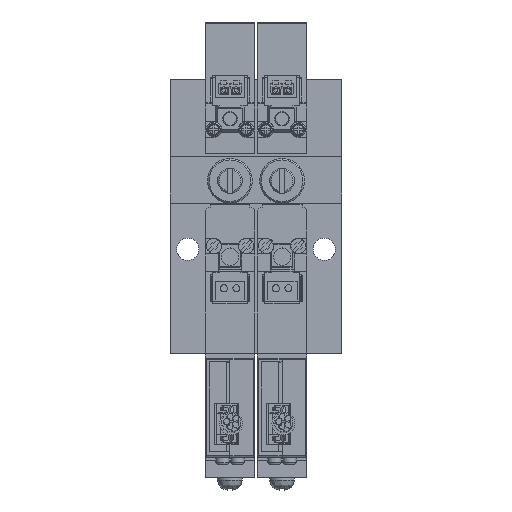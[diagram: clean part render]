
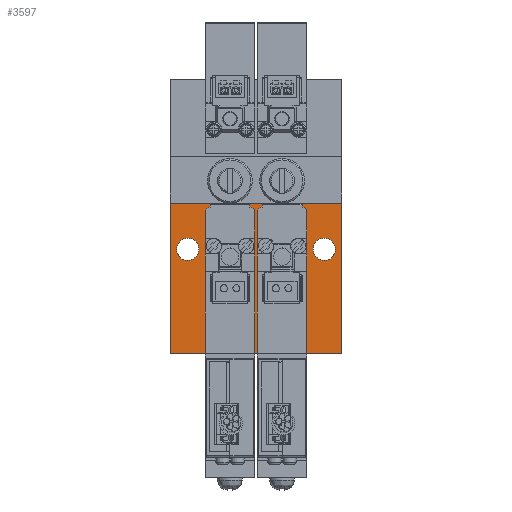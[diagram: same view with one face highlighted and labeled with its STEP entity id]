
A CAD part, top view. The second image highlights one B-rep face of the part: STEP entity #3597.
In plain terms, the highlighted planar face has unit normal (0, 0, 1).
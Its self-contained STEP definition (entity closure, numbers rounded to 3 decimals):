
#3597=ADVANCED_FACE('',(#6186,#6187,#6188),#6189,.F.);
#6186=FACE_BOUND('',#11472,.T.);
#6187=FACE_BOUND('',#11473,.T.);
#6188=FACE_OUTER_BOUND('',#11474,.T.);
#6189=PLANE('',#11475);
#11472=EDGE_LOOP('',(#17495));
#11473=EDGE_LOOP('',(#17496));
#11474=EDGE_LOOP('',(#17497,#17498,#17499,#17500));
#11475=AXIS2_PLACEMENT_3D('',#17501,#17502,#17503);
#17495=ORIENTED_EDGE('',*,*,#37843,.F.);
#17496=ORIENTED_EDGE('',*,*,#37844,.F.);
#17497=ORIENTED_EDGE('',*,*,#37845,.F.);
#17498=ORIENTED_EDGE('',*,*,#37846,.F.);
#17499=ORIENTED_EDGE('',*,*,#37847,.T.);
#17500=ORIENTED_EDGE('',*,*,#37841,.T.);
#17501=CARTESIAN_POINT('',(-34.5,30.3,14.8));
#17502=DIRECTION('',(0.0,0.0,-1.0));
#17503=DIRECTION('',(1.0,0.0,0.0));
#37841=EDGE_CURVE('',#44412,#44410,#44413,.T.);
#37843=EDGE_CURVE('',#44415,#44415,#44416,.T.);
#37844=EDGE_CURVE('',#44417,#44417,#44418,.T.);
#37845=EDGE_CURVE('',#44419,#44410,#44420,.T.);
#37846=EDGE_CURVE('',#44421,#44419,#44422,.T.);
#37847=EDGE_CURVE('',#44421,#44412,#44423,.T.);
#44410=VERTEX_POINT('',#55430);
#44412=VERTEX_POINT('',#55433);
#44413=LINE('',#55434,#55435);
#44415=VERTEX_POINT('',#55438);
#44416=CIRCLE('',#55439,2.25);
#44417=VERTEX_POINT('',#55440);
#44418=CIRCLE('',#55441,2.25);
#44419=VERTEX_POINT('',#55442);
#44420=LINE('',#55443,#55444);
#44421=VERTEX_POINT('',#55445);
#44422=LINE('',#55446,#55447);
#44423=LINE('',#55448,#55449);
#55430=CARTESIAN_POINT('',(0.0,0.,14.8));
#55433=CARTESIAN_POINT('',(-34.5,0.,14.8));
#55434=CARTESIAN_POINT('',(-34.5,0.,14.8));
#55435=VECTOR('',#72886,1.0);
#55438=CARTESIAN_POINT('',(-28.75,21.0,14.8));
#55439=AXIS2_PLACEMENT_3D('',#72888,#72889,#72890);
#55440=CARTESIAN_POINT('',(-1.25,21.0,14.8));
#55441=AXIS2_PLACEMENT_3D('',#72891,#72892,#72893);
#55442=CARTESIAN_POINT('',(0.0,30.3,14.8));
#55443=CARTESIAN_POINT('',(0.0,30.3,14.8));
#55444=VECTOR('',#72894,1.0);
#55445=CARTESIAN_POINT('',(-34.5,30.3,14.8));
#55446=CARTESIAN_POINT('',(-34.5,30.3,14.8));
#55447=VECTOR('',#72895,1.0);
#55448=CARTESIAN_POINT('',(-34.5,30.3,14.8));
#55449=VECTOR('',#72896,1.0);
#72886=DIRECTION('',(1.0,0.0,0.0));
#72888=CARTESIAN_POINT('',(-31.0,21.0,14.8));
#72889=DIRECTION('',(0.0,0.0,1.0));
#72890=DIRECTION('',(1.0,0.0,0.0));
#72891=CARTESIAN_POINT('',(-3.5,21.0,14.8));
#72892=DIRECTION('',(0.0,0.0,1.0));
#72893=DIRECTION('',(1.0,0.0,0.0));
#72894=DIRECTION('',(0.0,-1.0,0.0));
#72895=DIRECTION('',(1.0,0.0,0.0));
#72896=DIRECTION('',(0.0,-1.0,0.0));
